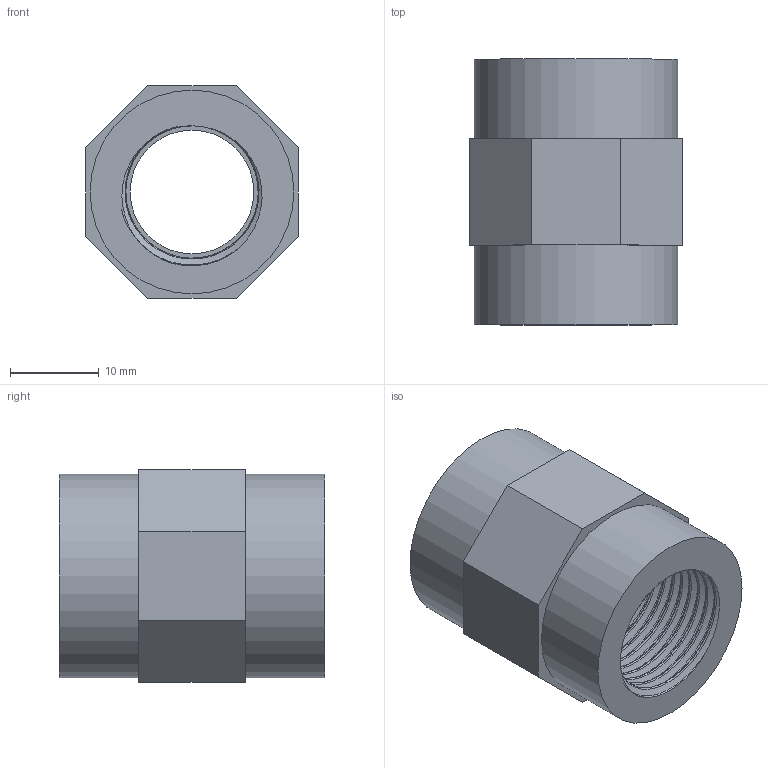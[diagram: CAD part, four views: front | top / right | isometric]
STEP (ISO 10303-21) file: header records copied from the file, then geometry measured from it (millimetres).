
FILE_DESCRIPTION(/* description */ ('PVC manicotto filettato BSP femmina'),/* implementation_level */ '2;1');
FILE_NAME(/* name */ 'C:\Users\POLYPIPE\Desktop\DATASET INVENTOR\LIBRERIA EFFAST\RACCORDI 3DxWEB\RER\3D_RERMAE\3D_RERMAE016A.stp',/* time_stamp */ '2018-01-19T16:36:46+01:00',/* author */ ('POLYPIPE'),/* organization */ ('Polypipe Italia'),/* preprocessor_version */ 'ST-DEVELOPER v16.1',/* originating_system */ 'Autodesk Inventor 2016',/* authorisation */ '');
FILE_SCHEMA (('CONFIG_CONTROL_DESIGN'));
Length unit declared in the file: millimetre
Products named in the file (1): 3D_RERMAE
Bounding box: 24 x 30 x 24 mm (x, y, z)
Volume: 7621.8 mm3; surface area: 5157.1 mm2
Topology: 1 solids, 1 shells, 27 faces, 63 edges, 42 vertices
Faces by surface type: plane 14, bspline 10, cylinder 3
Full cylindrical faces by diameter (mm): 13.95 x1, 23 x2
Entity records: 7670 total; most frequent: CARTESIAN_POINT 7114, ORIENTED_EDGE 120, DIRECTION 72, EDGE_CURVE 60, VERTEX_POINT 42, EDGE_LOOP 36, B_SPLINE_CURVE_WITH_KNOTS 30, FACE_OUTER_BOUND 27
